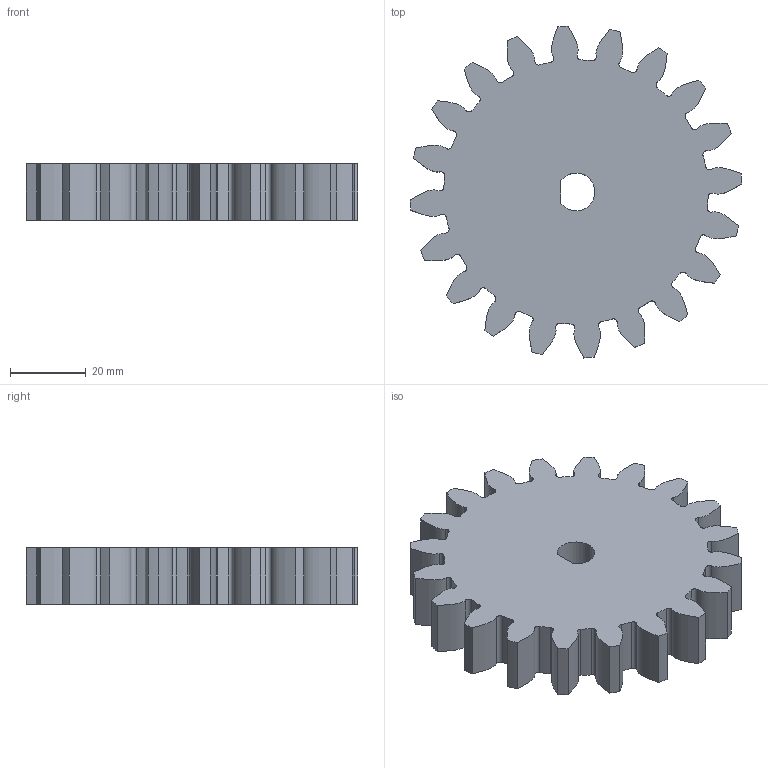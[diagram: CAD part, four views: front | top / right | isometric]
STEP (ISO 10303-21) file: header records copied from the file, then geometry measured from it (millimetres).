
FILE_DESCRIPTION (( 'STEP AP203' ), '1' );
FILE_NAME ('Pignon denture droite m=4 Z=20.STEP', '2025-09-18T12:04:27', ( '' ), ( '' ), 'SwSTEP 2.0', 'SolidWorks 2019', '' );
FILE_SCHEMA (( 'CONFIG_CONTROL_DESIGN' ));
Length unit declared in the file: millimetre
Products named in the file (1): Pignon denture droite m=4 Z=20
Bounding box: 87.9 x 87.9 x 15 mm (x, y, z)
Volume: 72299.2 mm3; surface area: 17901.8 mm2
Topology: 1 solids, 1 shells, 135 faces, 399 edges, 266 vertices
Faces by surface type: cylinder 92, bspline 40, plane 3
Entity records: 5238 total; most frequent: CARTESIAN_POINT 1641, ORIENTED_EDGE 798, DIRECTION 695, EDGE_CURVE 399, AXIS2_PLACEMENT_3D 280, VERTEX_POINT 266, CIRCLE 184, EDGE_LOOP 137
